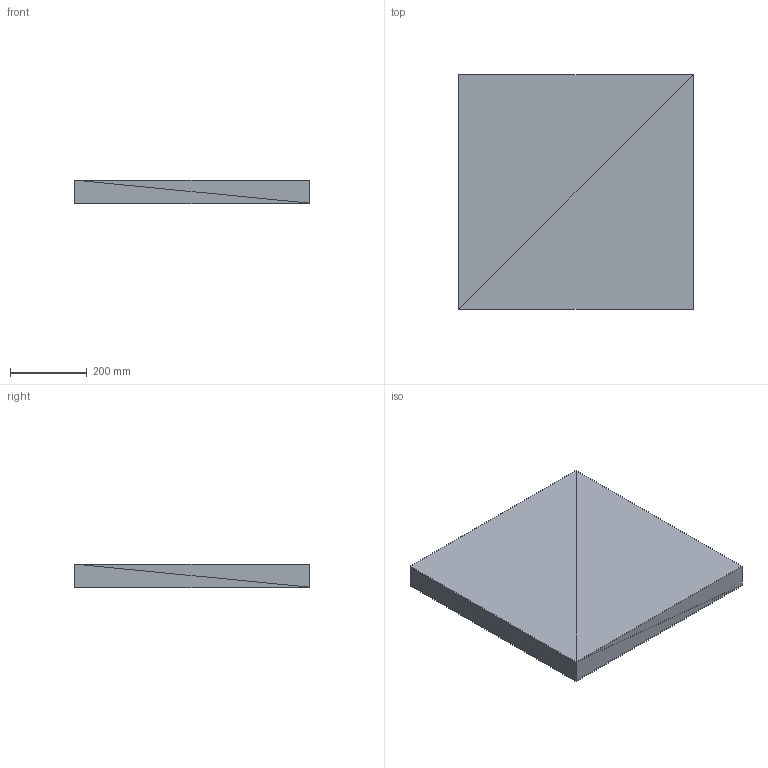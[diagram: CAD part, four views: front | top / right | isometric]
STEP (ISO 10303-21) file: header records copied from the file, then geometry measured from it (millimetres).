
FILE_DESCRIPTION(('ISINAC STEP AP214'),'2;1');
FILE_NAME('ISINAC_C.610_60mm_IMANTADA','2026-05-03T10:49:19',('ISINAC'),('www.isinac.com'),'ISINAC BIM Generator 1.0','','');
FILE_SCHEMA(('AUTOMOTIVE_DESIGN'));
Length unit declared in the file: millimetre
Products named in the file (1): ISINAC_C.610_60mm_IMANTADA
Bounding box: 610 x 610 x 62 mm (x, y, z)
Surface area: 1639680 mm2 (no closed solid volume)
Topology: 0 solids, 24 shells, 24 faces, 72 edges, 72 vertices
Faces by surface type: plane 24
Entity records: 277 total; most frequent: CARTESIAN_POINT 96, DIRECTION 48, POLY_LOOP 24, FACE_OUTER_BOUND 24, AXIS2_PLACEMENT_3D 24, PLANE 24, FACE_SURFACE 24, CLOSED_SHELL 1
